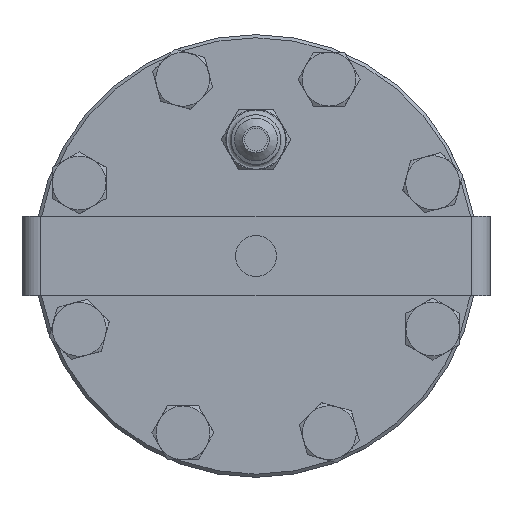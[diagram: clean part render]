
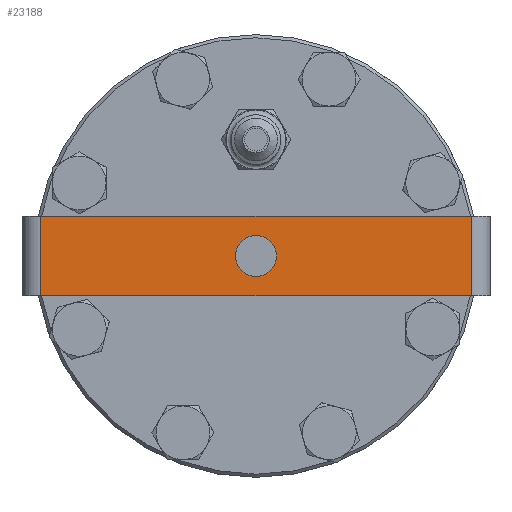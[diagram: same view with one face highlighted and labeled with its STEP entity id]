
A CAD part, front view. The second image highlights one B-rep face of the part: STEP entity #23188.
In plain terms, the highlighted planar face has unit normal (0, -1, 0).
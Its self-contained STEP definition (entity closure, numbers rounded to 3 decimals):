
#2742=LINE('',#47513,#4248);
#2747=LINE('',#47531,#4253);
#2758=LINE('',#47559,#4264);
#2764=LINE('',#47586,#4270);
#4248=VECTOR('',#29643,136.);
#4253=VECTOR('',#29660,136.);
#4264=VECTOR('',#29691,25.);
#4270=VECTOR('',#29711,25.);
#5159=FACE_BOUND('',#7817,.T.);
#6351=FACE_OUTER_BOUND('',#7816,.T.);
#7816=EDGE_LOOP('',(#20222,#20223,#20224,#20225));
#7817=EDGE_LOOP('',(#20226));
#8588=CIRCLE('',#24898,6.5);
#10696=VERTEX_POINT('',#47446);
#10720=VERTEX_POINT('',#47510);
#10721=VERTEX_POINT('',#47512);
#10727=VERTEX_POINT('',#47528);
#10728=VERTEX_POINT('',#47530);
#13920=EDGE_CURVE('',#10696,#10696,#8588,.T.);
#13953=EDGE_CURVE('',#10721,#10720,#2742,.T.);
#13962=EDGE_CURVE('',#10728,#10727,#2747,.T.);
#13978=EDGE_CURVE('',#10720,#10728,#2758,.T.);
#13985=EDGE_CURVE('',#10727,#10721,#2764,.T.);
#20222=ORIENTED_EDGE('',*,*,#13978,.T.);
#20223=ORIENTED_EDGE('',*,*,#13962,.T.);
#20224=ORIENTED_EDGE('',*,*,#13985,.T.);
#20225=ORIENTED_EDGE('',*,*,#13953,.T.);
#20226=ORIENTED_EDGE('',*,*,#13920,.T.);
#22008=PLANE('',#24936);
#23188=ADVANCED_FACE('',(#6351,#5159),#22008,.F.);
#24898=AXIS2_PLACEMENT_3D('',#47447,#29587,#29588);
#24936=AXIS2_PLACEMENT_3D('',#47587,#29712,#29713);
#29587=DIRECTION('center_axis',(0.,1.,0.));
#29588=DIRECTION('ref_axis',(1.,0.,0.));
#29643=DIRECTION('',(1.,0.,0.));
#29660=DIRECTION('',(-1.,0.,0.));
#29691=DIRECTION('',(0.,0.,1.));
#29711=DIRECTION('',(0.,0.,-1.));
#29712=DIRECTION('center_axis',(0.,1.,0.));
#29713=DIRECTION('ref_axis',(1.,0.,0.));
#47446=CARTESIAN_POINT('',(6.5,-340.015,0.));
#47447=CARTESIAN_POINT('Origin',(0.,-340.015,
0.));
#47510=CARTESIAN_POINT('',(68.,-340.015,-12.5));
#47512=CARTESIAN_POINT('',(-68.,-340.015,-12.5));
#47513=CARTESIAN_POINT('',(-74.,-340.015,-12.5));
#47528=CARTESIAN_POINT('',(-68.,-340.015,12.5));
#47530=CARTESIAN_POINT('',(68.,-340.015,12.5));
#47531=CARTESIAN_POINT('',(74.,-340.015,12.5));
#47559=CARTESIAN_POINT('',(68.,-340.015,-6.25));
#47586=CARTESIAN_POINT('',(-68.,-340.015,6.25));
#47587=CARTESIAN_POINT('Origin',(0.,-340.015,
0.));
